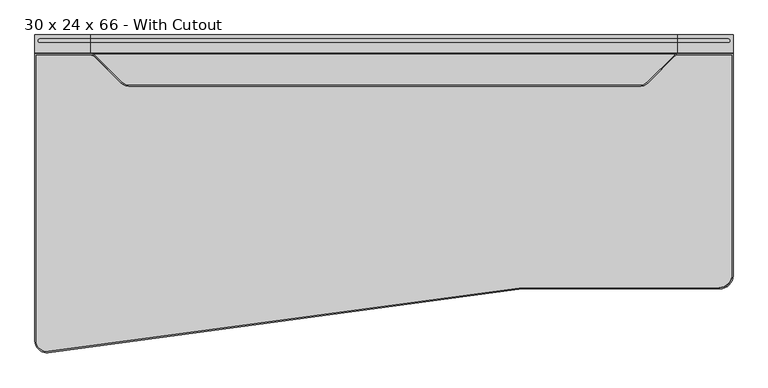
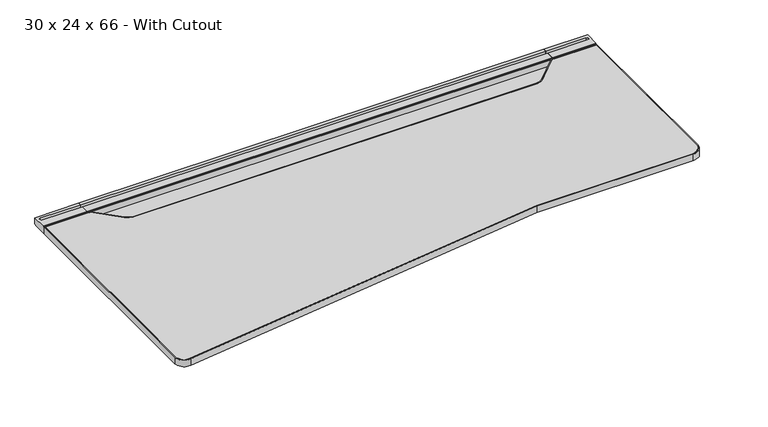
"""IFC4 building model written with IfcOpenShell, lengths in millimetres: furniture geometry, Steelcase - C Scape - Desking - Left Hand Transition - Non Sliding : 30 x 24 x 66 - With Cutout."""

from ifc_helpers import new_model, si_unit, point, frame, frame_2d, origin, place, context, project, spatial, polyline, circle_curve, trimmed, segment, composite_curve, outline, extrude, faceted_brep, source, transform, mapped, element, save
from ifc_brep_helpers import plane_surface, cylinder_surface, revolved_surface, advanced_brep


def furniture_30_x_24_x_66_with_cutout_a6fa4a9a(model_context):
    return source(origin(), model_context, "Body", "SolidModel", [
        advanced_brep(
        [(283.8322876, -45.3135132, 703.3768), (283.8322876, -4.0331902, 703.3768), (283.8322876, -3.2278472, 705.1038636), (283.8322876, 0.0, 705.1038636), (283.8322876, 0.0, 725.932), (283.8322876, -8.5111084, 725.932), (283.8322876, -8.5111084, 713.486), (283.8322876, -19.3290527, 713.486), (283.8322876, -19.3290527, 725.932), (283.8322876, -42.7750923, 725.932), (283.8322876, -42.7750923, 722.4268341), (283.8322876, -45.3135132, 722.4268341), (150.8125, -45.3135132, 703.3768), (150.8125, -45.3135132, 722.4268341), (150.8125, -42.7750923, 722.4268341), (150.8125, -42.7750923, 725.932), (150.8125, 0.0, 725.932), (150.8125, 0.0, 705.1038636), (150.8125, -3.2278472, 705.1038636), (150.8125, -4.0331902, 703.3768), (162.5745728, -19.3290527, 725.932), (162.5745728, -8.5111084, 725.932), (162.5745728, -8.5111084, 713.486), (162.5745728, -19.3290527, 713.486)],
        [
            (0, 1),
            (1, 2),
            (2, 3),
            (3, 4),
            (4, 5),
            (5, 6),
            (6, 7),
            (7, 8),
            (8, 9),
            (9, 10),
            (10, 11),
            (11, 0),
            (12, 13),
            (13, 14),
            (14, 15),
            (15, 16),
            (16, 17),
            (17, 18),
            (18, 19),
            (19, 12),
            (0, 12),
            (19, 1),
            (18, 2),
            (17, 3),
            (16, 4),
            (15, 9),
            (8, 20),
            (20, 21, circle_curve(frame((162.5745728, -13.9200806, 725.932), z_axis=(0.0, 0.0, -1.0), x_axis=(1.0, 0.0, 0.0)), 5.4089722)),
            (21, 5),
            (14, 10),
            (13, 11),
            (6, 22),
            (22, 23, circle_curve(frame((162.5745728, -13.9200806, 713.486), z_axis=(0.0, 0.0, 1.0), x_axis=(1.0, 0.0, 0.0)), 5.4089722)),
            (23, 7),
            (21, 22),
            (20, 23),
        ],
        [
            plane_surface(frame((283.8322876, -45.3135132, 703.3768), z_axis=(1.0, 0.0, 0.0), x_axis=(0.0, 1.0, 0.0))),
            plane_surface(frame((150.8125, -45.3135132, 703.3768), z_axis=(-1.0, 0.0, 0.0), x_axis=(0.0, -1.0, 0.0))),
            plane_surface(frame((283.8322876, -45.3135132, 703.3768), z_axis=(0.0, 0.0, -1.0), x_axis=(-1.0, 0.0, 0.0))),
            plane_surface(frame((283.8322876, -4.0331902, 703.3768), z_axis=(0.0, 0.9063077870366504, -0.4226182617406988), x_axis=(-1.0, 0.0, 0.0))),
            plane_surface(frame((283.8322876, -3.2278472, 705.1038636), z_axis=(0.0, 0.0, -1.0), x_axis=(-1.0, 0.0, 0.0))),
            plane_surface(frame((283.8322876, 0.0, 705.1038636), z_axis=(0.0, 1.0, 0.0), x_axis=(-1.0, 0.0, 0.0))),
            plane_surface(frame((283.8322876, 0.0, 725.932), z_axis=(0.0, 0.0, 1.0), x_axis=(-1.0, 0.0, 0.0))),
            plane_surface(frame((283.8322876, -42.7750923, 725.932), z_axis=(0.0, -1.0, 0.0), x_axis=(-1.0, 0.0, 0.0))),
            plane_surface(frame((283.8322876, -42.7750923, 722.4268341), z_axis=(0.0, 0.0, 1.0), x_axis=(-1.0, 0.0, 0.0))),
            plane_surface(frame((283.8322876, -45.3135132, 722.4268341), z_axis=(0.0, -1.0, 0.0), x_axis=(-1.0, 0.0, 0.0))),
            plane_surface(frame((162.5745728, -8.5111084, 713.486), z_axis=(0.0, 0.0, 1.0), x_axis=(1.0, 0.0, 0.0))),
            plane_surface(frame((283.8322876, -8.5111084, 731.2180541), z_axis=(0.0, -1.0, 0.0), x_axis=(0.0, 0.0, -1.0))),
            revolved_surface(polyline([(167.983545, -13.9200806, 725.932), (167.983545, -13.9200806, 713.486)]), (162.5745728, -13.9200806, 713.486), (0.0, 0.0, 1.0)),
            plane_surface(frame((162.5745728, -19.3290527, 731.2180541), z_axis=(0.0, 1.0, 0.0), x_axis=(0.0, 0.0, -1.0))),
        ],
        [
            (0, [[1, 2, 3, 4, 5, 6, 7, 8, 9, 10, 11, 12]]),
            (1, [[13, 14, 15, 16, 17, 18, 19, 20]]),
            (2, [[-1, 21, -20, 22]]),
            (3, [[-2, -22, -19, 23]]),
            (4, [[-3, -23, -18, 24]]),
            (5, [[-4, -24, -17, 25]]),
            (6, [[-16, 26, -9, 27, 28, 29, -5, -25]]),
            (7, [[-10, -26, -15, 30]]),
            (8, [[-11, -30, -14, 31]]),
            (9, [[-12, -31, -13, -21]]),
            (10, [[32, 33, 34, -7]]),
            (11, [[-32, -6, -29, 35]]),
            (12, [[-33, -35, -28, 36]]),
            (13, [[-34, -36, -27, -8]]),
        ],
    ),
        faceted_brep([(169.8632632, -565.0752923, 700.7093833), (184.1383728, -565.0752923, 693.4200291), (265.5775879, -565.0752923, 693.4200291), (268.1981301, -565.0752923, 679.3263935), (283.8322876, -565.0752923, 679.3263935), (283.8322876, -565.0752923, 703.3768), (169.8632632, -565.0752923, 703.3768), (169.8632632, -4.0331902, 700.7093833), (169.8632632, -4.0331902, 703.3768), (283.8322876, -4.0331902, 703.3768), (283.8322876, -4.0331902, 629.3866), (277.4838347, -4.0331902, 629.3866), (265.5775879, -4.0331902, 693.4200291), (184.1383728, -4.0331902, 693.4200291), (277.4838347, -364.1172546, 629.3866), (270.3634051, -376.5599397, 667.6812472), (283.8322876, -364.1172546, 629.3866), (283.8322876, -376.5599397, 667.6812472)], [[[0, 1, 2, 3, 4, 5, 6]], [[7, 8, 9, 10, 11, 12, 13]], [[1, 0, 7, 13]], [[2, 1, 13, 12]], [[12, 11, 14, 15, 3, 2]], [[11, 10, 16, 14]], [[10, 9, 5, 4, 17, 16]], [[6, 5, 9, 8]], [[0, 6, 8, 7]], [[15, 17, 4, 3]], [[17, 15, 14, 16]]]),
        extrude(outline(composite_curve([segment(polyline([(-293.5216187, 657.3775839), (-559.0022133, 680.1371551)]), True, "CONTINUOUS"), segment(trimmed(circle_curve(frame_2d((-558.7581271, 682.9843154)), 2.8576039), [point((-559.0022133, 680.1371551))], [point((-561.5383043, 682.3236226))], False, "CARTESIAN"), True, "CONTINUOUS"), segment(polyline([(-561.5383043, 682.3236226), (-566.0887542, 701.4717905), (-557.8334441, 701.4717905), (-557.8334441, 703.3768), (-442.6683806, 703.3768), (-442.6683806, 696.3917953), (-318.2108611, 696.3917953), (-318.2108611, 703.3768), (-293.5216187, 703.3768), (-293.5216187, 657.3775839)]), True, "CONTINUOUS")], self_intersect=False)), frame((877.824, 0.0, 0.0), z_axis=(1.0, 0.0, 0.0), x_axis=(0.0, 1.0, 0.0)), (0.0, 0.0, 1.0), 73.152),
        advanced_brep(
        [(1694.1927124, -45.3135132, 703.3768), (1694.1927124, -45.3135132, 722.4268341), (1694.1927124, -42.7750923, 722.4268341), (1694.1927124, -42.7750923, 725.932), (1694.1927124, -19.3290527, 725.932), (1694.1927124, -19.3290527, 713.486), (1694.1927124, -8.5111084, 713.486), (1694.1927124, -8.5111084, 725.932), (1694.1927124, 0.0, 725.932), (1694.1927124, 0.0, 705.1038636), (1694.1927124, -3.2278472, 705.1038636), (1694.1927124, -4.0331902, 703.3768), (1827.2125, -45.3135132, 703.3768), (1827.2125, -4.0331902, 703.3768), (1827.2125, -3.2278472, 705.1038636), (1827.2125, 0.0, 705.1038636), (1827.2125, 0.0, 725.932), (1827.2125, -42.7750923, 725.932), (1827.2125, -42.7750923, 722.4268341), (1827.2125, -45.3135132, 722.4268341), (1815.4504272, -8.5111084, 725.932), (1815.4504272, -19.3290527, 725.932), (1815.4504272, -19.3290527, 713.486), (1815.4504272, -8.5111084, 713.486)],
        [
            (0, 1),
            (1, 2),
            (2, 3),
            (3, 4),
            (4, 5),
            (5, 6),
            (6, 7),
            (7, 8),
            (8, 9),
            (9, 10),
            (10, 11),
            (11, 0),
            (12, 13),
            (13, 14),
            (14, 15),
            (15, 16),
            (16, 17),
            (17, 18),
            (18, 19),
            (19, 12),
            (11, 13),
            (12, 0),
            (10, 14),
            (9, 15),
            (8, 16),
            (7, 20),
            (20, 21, circle_curve(frame((1815.4504272, -13.9200806, 725.932), z_axis=(0.0, 0.0, -1.0), x_axis=(-1.0, 0.0, 0.0)), 5.4089722)),
            (21, 4),
            (3, 17),
            (2, 18),
            (1, 19),
            (5, 22),
            (22, 23, circle_curve(frame((1815.4504272, -13.9200806, 713.486), z_axis=(0.0, 0.0, 1.0), x_axis=(-1.0, 0.0, 0.0)), 5.4089722)),
            (23, 6),
            (23, 20),
            (22, 21),
        ],
        [
            plane_surface(frame((1694.1927124, -45.3135132, 703.3768), z_axis=(-1.0, 0.0, 0.0), x_axis=(0.0, 1.0, 0.0))),
            plane_surface(frame((1827.2125, -45.3135132, 703.3768), z_axis=(1.0, 0.0, 0.0), x_axis=(0.0, -1.0, 0.0))),
            plane_surface(frame((1694.1927124, -45.3135132, 703.3768), z_axis=(0.0, 0.0, -1.0), x_axis=(1.0, 0.0, 0.0))),
            plane_surface(frame((1694.1927124, -4.0331902, 703.3768), z_axis=(0.0, 0.9063077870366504, -0.4226182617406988), x_axis=(1.0, 0.0, 0.0))),
            plane_surface(frame((1694.1927124, -3.2278472, 705.1038636), z_axis=(0.0, 0.0, -1.0), x_axis=(1.0, 0.0, 0.0))),
            plane_surface(frame((1694.1927124, 0.0, 705.1038636), z_axis=(0.0, 1.0, 0.0), x_axis=(1.0, 0.0, 0.0))),
            plane_surface(frame((1694.1927124, 0.0, 725.932), z_axis=(0.0, 0.0, 1.0), x_axis=(1.0, 0.0, 0.0))),
            plane_surface(frame((1694.1927124, -42.7750923, 725.932), z_axis=(0.0, -1.0, 0.0), x_axis=(1.0, 0.0, 0.0))),
            plane_surface(frame((1694.1927124, -42.7750923, 722.4268341), z_axis=(0.0, 0.0, 1.0), x_axis=(1.0, 0.0, 0.0))),
            plane_surface(frame((1694.1927124, -45.3135132, 722.4268341), z_axis=(0.0, -1.0, 0.0), x_axis=(1.0, 0.0, 0.0))),
            plane_surface(frame((1815.4504272, -8.5111084, 713.486), z_axis=(0.0, 0.0, 1.0), x_axis=(-1.0, 0.0, 0.0))),
            plane_surface(frame((1694.1927124, -8.5111084, 731.2180541), z_axis=(0.0, -1.0, 0.0), x_axis=(0.0, 0.0, -1.0))),
            revolved_surface(polyline([(1810.0414549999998, -13.9200806, 725.932), (1810.0414549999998, -13.9200806, 713.486)]), (1815.4504272, -13.9200806, 713.486), (0.0, 0.0, 1.0)),
            plane_surface(frame((1815.4504272, -19.3290527, 731.2180541), z_axis=(0.0, 1.0, 0.0), x_axis=(0.0, 0.0, -1.0))),
        ],
        [
            (0, [[1, 2, 3, 4, 5, 6, 7, 8, 9, 10, 11, 12]]),
            (1, [[13, 14, 15, 16, 17, 18, 19, 20]]),
            (2, [[21, -13, 22, -12]]),
            (3, [[23, -14, -21, -11]]),
            (4, [[24, -15, -23, -10]]),
            (5, [[25, -16, -24, -9]]),
            (6, [[-25, -8, 26, 27, 28, -4, 29, -17]]),
            (7, [[30, -18, -29, -3]]),
            (8, [[31, -19, -30, -2]]),
            (9, [[-22, -20, -31, -1]]),
            (10, [[-6, 32, 33, 34]]),
            (11, [[35, -26, -7, -34]]),
            (12, [[36, -27, -35, -33]]),
            (13, [[-5, -28, -36, -32]]),
        ],
    ),
        faceted_brep([(1808.1617368, -565.0752923, 700.7093833), (1808.1617368, -565.0752923, 703.3768), (1694.1927124, -565.0752923, 703.3768), (1694.1927124, -565.0752923, 679.3263935), (1709.8268699, -565.0752923, 679.3263935), (1712.4474121, -565.0752923, 693.4200291), (1793.8866272, -565.0752923, 693.4200291), (1808.1617368, -4.0331902, 700.7093833), (1793.8866272, -4.0331902, 693.4200291), (1712.4474121, -4.0331902, 693.4200291), (1700.5411653, -4.0331902, 629.3866), (1694.1927124, -4.0331902, 629.3866), (1694.1927124, -4.0331902, 703.3768), (1808.1617368, -4.0331902, 703.3768), (1707.6615949, -376.5599397, 667.6812472), (1700.5411653, -364.1172546, 629.3866), (1694.1927124, -364.1172546, 629.3866), (1694.1927124, -376.5599397, 667.6812472)], [[[0, 1, 2, 3, 4, 5, 6]], [[7, 8, 9, 10, 11, 12, 13]], [[6, 8, 7, 0]], [[5, 9, 8, 6]], [[9, 5, 4, 14, 15, 10]], [[10, 15, 16, 11]], [[11, 16, 17, 3, 2, 12]], [[1, 13, 12, 2]], [[0, 7, 13, 1]], [[14, 4, 3, 17]], [[17, 16, 15, 14]]]),
        extrude(outline(polyline([(-8.5111084, 725.932), (0.0, 725.932), (0.0, 705.1038636), (-3.2278472, 705.1038636), (-4.0331902, 703.3768), (-45.3135132, 703.3768), (-45.3135132, 722.4268341), (-42.7750923, 722.4268341), (-42.7750923, 725.932), (-19.3290527, 725.932), (-19.3290527, 713.486), (-8.5111084, 713.486), (-8.5111084, 725.932)])), frame((283.8322876, 0.0, 0.0), z_axis=(1.0, 0.0, 0.0), x_axis=(0.0, 1.0, 0.0)), (0.0, 0.0, 1.0), 1410.3604248),
        extrude(outline(polyline([(1694.1927124, -4.0331902), (1694.1927124, -293.5216187), (283.8322876, -293.5216187), (283.8322876, -4.0331902), (1694.1927124, -4.0331902)])), frame((0.0, 0.0, 629.3866), z_axis=(0.0, 0.0, 1.0), x_axis=(1.0, 0.0, 0.0)), (0.0, 0.0, 1.0), 73.9902),
        extrude(outline(composite_curve([segment(polyline([(153.8605, -48.3660689), (283.2372608, -48.3660689)]), True, "CONTINUOUS"), segment(trimmed(circle_curve(frame_2d((283.2372608, -64.9605938)), 16.5945249), [point((283.2372608, -48.3660689))], [point((294.9713581, -53.2264889))], False, "CARTESIAN"), True, "CONTINUOUS"), segment(polyline([(294.9713581, -53.2264889), (355.0994608, -113.3545523)]), True, "CONTINUOUS"), segment(trimmed(circle_curve(frame_2d((382.0402204, -86.4137752)), 38.1), [point((355.0994608, -113.3545523))], [point((382.0402204, -124.5137752))], True, "CARTESIAN"), True, "CONTINUOUS"), segment(polyline([(382.0402204, -124.5137752), (1599.1598212, -124.5137752)]), True, "CONTINUOUS"), segment(trimmed(circle_curve(frame_2d((1599.1598212, -86.4137752)), 38.1), [point((1599.1598212, -124.5137752))], [point((1626.1005905, -113.3545426))], True, "CARTESIAN"), True, "CONTINUOUS"), segment(polyline([(1626.1005905, -113.3545426), (1687.7230199, -51.7321087)]), True, "CONTINUOUS"), segment(trimmed(circle_curve(frame_2d((1695.45, -58.9180007)), 10.5519318), [point((1687.7230199, -51.7321087))], [point((1695.45, -48.3660689))], False, "CARTESIAN"), True, "CONTINUOUS"), segment(polyline([(1695.45, -48.3660689), (1824.1645, -48.3660689), (1824.1645, -574.7990234)]), True, "CONTINUOUS"), segment(trimmed(circle_curve(frame_2d((1792.4145, -574.7990234)), 31.75), [point((1824.1645, -574.7990234))], [point((1792.4145, -606.5490234))], False, "CARTESIAN"), True, "CONTINUOUS"), segment(polyline([(1792.4145, -606.5490234), (1320.7997595, -606.5490234), (182.2636568, -759.8823654)]), True, "CONTINUOUS"), segment(trimmed(circle_curve(frame_2d((179.2605, -734.6605286)), 25.4), [point((182.2636568, -759.8823654))], [point((153.8605, -734.6605286))], False, "CARTESIAN"), True, "CONTINUOUS"), segment(polyline([(153.8605, -734.6605286), (153.8605, -48.3660689)]), True, "CONTINUOUS")], self_intersect=False)), frame((0.0, 0.0, 703.3768), z_axis=(0.0, 0.0, 1.0), x_axis=(1.0, 0.0, 0.0)), (0.0, 0.0, 1.0), 20.5232),
        advanced_brep(
        [(1824.1625156, -577.8497165, 703.3768), (1795.4632087, -606.5490234, 703.3768), (1795.4632087, -606.5490234, 723.9), (1824.1625156, -577.8497165, 723.9), (1827.2134922, -577.8497165, 723.9), (1795.4632087, -609.6, 723.9), (1795.4632087, -609.6, 703.3768), (1827.2134922, -577.8497165, 703.3768), (1824.1625156, -48.3666358, 723.9), (1824.1625156, -48.3666358, 703.3768), (1827.2134922, -45.3156593, 703.3768), (1827.2134922, -45.3156593, 723.9), (1695.45, -48.3666358, 723.9), (1695.45, -48.3666358, 703.3768), (1695.45, -45.3156593, 703.3768), (1695.45, -45.3156593, 723.9), (1687.7234351, -51.7324948, 703.3768), (1687.7234351, -51.7324948, 723.9), (1685.4892627, -49.6547721, 723.9), (1685.4892627, -49.6547721, 703.3768), (1624.9189809, -114.5369541, 723.9), (1624.9189809, -114.5369541, 703.3768), (1622.7616146, -112.3795879, 703.3768), (1622.7616146, -112.3795879, 723.9), (1600.8314365, -124.5143421, 703.3768), (1600.8314365, -124.5143421, 723.9), (1600.8314365, -121.4633656, 723.9), (1600.8314365, -121.4633656, 703.3768), (380.3685947, -124.5143421, 723.9), (380.3685947, -124.5143421, 703.3768), (380.3685947, -121.4633656, 703.3768), (380.3685947, -121.4633656, 723.9), (356.2810781, -114.5369706, 703.3768), (356.2810781, -114.5369706, 723.9), (358.4384436, -112.3796037, 723.9), (358.4384436, -112.3796037, 703.3768), (293.5539317, -51.8098652, 723.9), (293.5539317, -51.8098652, 703.3768), (295.7112972, -49.6524983, 703.3768), (295.7112972, -49.6524983, 723.9), (283.8323173, -48.3666358, 703.3768), (283.8323173, -48.3666358, 723.9), (283.6816695, -45.3156593, 723.9), (283.6816695, -45.3156593, 703.3768), (153.861067, -48.3666358, 723.9), (153.861067, -48.3666358, 703.3768), (150.8100904, -45.3156593, 703.3768), (150.8100904, -45.3156593, 723.9), (153.861067, -734.6605286, 723.9), (153.861067, -734.6605286, 703.3768), (150.8100904, -734.6605286, 703.3768), (150.8100904, -734.6605286, 723.9), (182.2635898, -759.8818024, 703.3768), (182.2635898, -759.8818024, 723.9), (182.6243205, -762.9113785, 723.9), (182.6243205, -762.9113785, 703.3768), (1320.9994832, -609.6, 723.9), (1320.7949598, -606.5490234, 723.9), (1320.7949598, -606.5490234, 703.3768), (1320.9994832, -609.6, 703.3768)],
        [
            (0, 1, circle_curve(frame((1795.4632087, -577.8497165, 703.3768), z_axis=(0.0, 0.0, -1.0), x_axis=(0.0, -1.0, 0.0)), 28.6993069)),
            (1, 2),
            (2, 3, circle_curve(frame((1795.4632087, -577.8497165, 723.9), z_axis=(0.0, 0.0, 1.0), x_axis=(0.0, -1.0, 0.0)), 28.6993069)),
            (3, 0),
            (4, 5, circle_curve(frame((1795.4632087, -577.8497165, 723.9), z_axis=(0.0, 0.0, -1.0), x_axis=(0.0, -1.0, 0.0)), 31.7502835)),
            (5, 6),
            (6, 7, circle_curve(frame((1795.4632087, -577.8497165, 703.3768), z_axis=(0.0, 0.0, 1.0), x_axis=(0.0, -1.0, 0.0)), 31.7502835)),
            (7, 4),
            (3, 8),
            (8, 9),
            (9, 0),
            (7, 10),
            (10, 11),
            (11, 4),
            (8, 12),
            (12, 13),
            (13, 9),
            (10, 14),
            (14, 15),
            (15, 11),
            (16, 13, circle_curve(frame((1695.45, -58.9180007, 703.3768), z_axis=(0.0, 0.0, -1.0), x_axis=(0.0, 1.0, 0.0)), 10.5513648)),
            (12, 17, circle_curve(frame((1695.45, -58.9180007, 723.9), z_axis=(0.0, 0.0, 1.0), x_axis=(0.0, 1.0, 0.0)), 10.5513648)),
            (17, 16),
            (18, 15, circle_curve(frame((1695.45, -58.9180007, 723.9), z_axis=(0.0, 0.0, -1.0), x_axis=(0.0, 1.0, 0.0)), 13.6023414)),
            (14, 19, circle_curve(frame((1695.45, -58.9180007, 703.3768), z_axis=(0.0, 0.0, 1.0), x_axis=(0.0, 1.0, 0.0)), 13.6023414)),
            (19, 18),
            (17, 20),
            (20, 21),
            (21, 16),
            (19, 22),
            (22, 23),
            (23, 18),
            (24, 21, circle_curve(frame((1600.8314365, -90.4494114, 703.3768), z_axis=(0.0, 0.0, 1.0), x_axis=(0.7071068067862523, -0.7071067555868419, 0.0)), 34.0649308)),
            (20, 25, circle_curve(frame((1600.8314365, -90.4494114, 723.9), z_axis=(0.0, 0.0, -1.0), x_axis=(0.7071068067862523, -0.7071067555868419, 0.0)), 34.0649308)),
            (25, 24),
            (26, 23, circle_curve(frame((1600.8314365, -90.4494114, 723.9), z_axis=(0.0, 0.0, 1.0), x_axis=(0.7071068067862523, -0.7071067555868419, 0.0)), 31.0139542)),
            (22, 27, circle_curve(frame((1600.8314365, -90.4494114, 703.3768), z_axis=(0.0, 0.0, -1.0), x_axis=(0.7071068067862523, -0.7071067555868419, 0.0)), 31.0139542)),
            (27, 26),
            (25, 28),
            (28, 29),
            (29, 24),
            (27, 30),
            (30, 31),
            (31, 26),
            (32, 29, circle_curve(frame((380.3685947, -90.4494383, 703.3768), z_axis=(0.0, 0.0, 1.0), x_axis=(0.0, -1.0, 0.0)), 34.0649039)),
            (28, 33, circle_curve(frame((380.3685947, -90.4494383, 723.9), z_axis=(0.0, 0.0, -1.0), x_axis=(0.0, -1.0, 0.0)), 34.0649039)),
            (33, 32),
            (34, 31, circle_curve(frame((380.3685947, -90.4494383, 723.9), z_axis=(0.0, 0.0, 1.0), x_axis=(0.0, -1.0, 0.0)), 31.0139273)),
            (30, 35, circle_curve(frame((380.3685947, -90.4494383, 703.3768), z_axis=(0.0, 0.0, -1.0), x_axis=(0.0, -1.0, 0.0)), 31.0139273)),
            (35, 34),
            (33, 36),
            (36, 37),
            (37, 32),
            (35, 38),
            (38, 39),
            (39, 34),
            (40, 37, circle_curve(frame((285.0831504, -60.280652, 703.3768), z_axis=(0.0, 0.0, -1.0), x_axis=(0.7071065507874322, 0.7071070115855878, 0.0)), 11.9794977)),
            (36, 41, circle_curve(frame((285.0831504, -60.280652, 723.9), z_axis=(0.0, 0.0, 1.0), x_axis=(0.7071065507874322, 0.7071070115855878, 0.0)), 11.9794977)),
            (41, 40),
            (42, 39, circle_curve(frame((285.0831504, -60.280652, 723.9), z_axis=(0.0, 0.0, -1.0), x_axis=(0.7071065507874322, 0.7071070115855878, 0.0)), 15.0304743)),
            (38, 43, circle_curve(frame((285.0831504, -60.280652, 703.3768), z_axis=(0.0, 0.0, 1.0), x_axis=(0.7071065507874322, 0.7071070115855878, 0.0)), 15.0304743)),
            (43, 42),
            (41, 44),
            (44, 45),
            (45, 40),
            (43, 46),
            (46, 47),
            (47, 42),
            (44, 48),
            (48, 49),
            (49, 45),
            (46, 50),
            (50, 51),
            (51, 47),
            (52, 49, circle_curve(frame((179.2605, -734.6605286, 703.3768), z_axis=(0.0, 0.0, -1.0), x_axis=(-1.0, 0.0, 0.0)), 25.399433)),
            (48, 53, circle_curve(frame((179.2605, -734.6605286, 723.9), z_axis=(0.0, 0.0, 1.0), x_axis=(-1.0, 0.0, 0.0)), 25.399433)),
            (53, 52),
            (54, 51, circle_curve(frame((179.2605, -734.6605286, 723.9), z_axis=(0.0, 0.0, -1.0), x_axis=(-1.0, 0.0, 0.0)), 28.4504096)),
            (50, 55, circle_curve(frame((179.2605, -734.6605286, 703.3768), z_axis=(0.0, 0.0, 1.0), x_axis=(-1.0, 0.0, 0.0)), 28.4504096)),
            (55, 54),
            (54, 56),
            (56, 5),
            (57, 53),
            (2, 57),
            (57, 58),
            (58, 52),
            (59, 55),
            (6, 59),
            (58, 1),
            (59, 56),
        ],
        [
            revolved_surface(polyline([(1795.4632087, -606.5490234, 723.9), (1795.4632087, -606.5490234, 703.3768)]), (1795.4632087, -577.8497165, 0.0), (0.0, 0.0, 1.0)),
            cylinder_surface(frame((1795.4632087, -577.8497165, 0.0), z_axis=(0.0, 0.0, 1.0), x_axis=(0.0, -1.0, 0.0)), 31.7502835),
            plane_surface(frame((1824.1625156, -577.8497165, 723.9), z_axis=(-1.0, 0.0, 0.0), x_axis=(0.0, 1.0, 0.0))),
            plane_surface(frame((1827.2134922, -577.8497165, 703.3768), z_axis=(1.0, 0.0, 0.0), x_axis=(0.0, 1.0, 0.0))),
            plane_surface(frame((1824.1625156, -48.3666358, 723.9), z_axis=(0.0, -1.0, 0.0), x_axis=(-1.0, 0.0, 0.0))),
            plane_surface(frame((1827.2134922, -45.3156593, 703.3768), z_axis=(0.0, 1.0, 0.0), x_axis=(-1.0, 0.0, 0.0))),
            revolved_surface(polyline([(1695.45, -48.3666359, 723.9), (1695.45, -48.3666359, 703.3768)]), (1695.45, -58.9180007, 0.0), (0.0, 0.0, 1.0)),
            cylinder_surface(frame((1695.45, -58.9180007, 0.0), z_axis=(0.0, 0.0, 1.0), x_axis=(0.0, 1.0, 0.0)), 13.6023414),
            plane_surface(frame((1687.7234354, -51.7324951, 723.9), z_axis=(0.7071068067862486, -0.7071067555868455, 0.0), x_axis=(-0.7071067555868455, -0.7071068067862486, 0.0))),
            plane_surface(frame((1685.4877928, -49.6534052, 703.3768), z_axis=(-0.7071068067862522, 0.707106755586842, 0.0), x_axis=(-0.707106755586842, -0.7071068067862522, 0.0))),
            cylinder_surface(frame((1600.8314365, -90.4494114, 0.0), z_axis=(0.0, 0.0, -1.0), x_axis=(0.7071068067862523, -0.7071067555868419, 0.0)), 34.0649308),
            revolved_surface(polyline([(1622.7616146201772, -112.37958793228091, 703.3768), (1622.7616146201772, -112.37958793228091, 723.9)]), (1600.8314365, -90.4494114, 0.0), (0.0, 0.0, -1.0)),
            plane_surface(frame((1600.8314365, -124.5143421, 723.9), z_axis=(0.0, -1.0, 0.0), x_axis=(-1.0, 0.0, 0.0))),
            plane_surface(frame((1600.8314365, -121.4633656, 703.3768), z_axis=(0.0, 1.0, 0.0), x_axis=(-1.0, 0.0, 0.0))),
            cylinder_surface(frame((380.3685947, -90.4494383, 0.0), z_axis=(0.0, 0.0, -1.0), x_axis=(0.0, -1.0, 0.0)), 34.0649039),
            revolved_surface(polyline([(380.3685947, -121.4633656, 703.3768), (380.3685947, -121.4633656, 723.9)]), (380.3685947, -90.4494383, 0.0), (0.0, 0.0, -1.0)),
            plane_surface(frame((356.2810781, -114.5369706, 723.9), z_axis=(-0.7071065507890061, -0.707107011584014, 0.0), x_axis=(-0.707107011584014, 0.7071065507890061, 0.0))),
            plane_surface(frame((358.4384436, -112.3796037, 703.3768), z_axis=(0.7071065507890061, 0.707107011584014, 0.0), x_axis=(-0.707107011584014, 0.7071065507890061, 0.0))),
            revolved_surface(polyline([(293.553931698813, -51.80986518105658, 723.9), (293.553931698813, -51.80986518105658, 703.3768)]), (285.0831504, -60.280652, 0.0), (0.0, 0.0, 1.0)),
            cylinder_surface(frame((285.0831504, -60.280652, 0.0), z_axis=(0.0, 0.0, 1.0), x_axis=(0.7071065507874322, 0.7071070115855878, 0.0)), 15.0304743),
            plane_surface(frame((283.8323173, -48.3666358, 723.9), z_axis=(0.0, -1.0, 0.0), x_axis=(-1.0, 0.0, 0.0))),
            plane_surface(frame((283.6816695, -45.3156593, 703.3768), z_axis=(0.0, 1.0, 0.0), x_axis=(-1.0, 0.0, 0.0))),
            plane_surface(frame((153.861067, -48.3666358, 723.9), z_axis=(1.0, 0.0, 0.0), x_axis=(0.0, -1.0, 0.0))),
            plane_surface(frame((150.8100904, -45.3156593, 703.3768), z_axis=(-1.0, 0.0, 0.0), x_axis=(0.0, -1.0, 0.0))),
            revolved_surface(polyline([(153.86106700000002, -734.6605286, 723.9), (153.86106700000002, -734.6605286, 703.3768)]), (179.2605, -734.6605286, 0.0), (0.0, 0.0, 1.0)),
            cylinder_surface(frame((179.2605, -734.6605286, 0.0), z_axis=(0.0, 0.0, 1.0), x_axis=(-1.0, 0.0, 0.0)), 28.4504096),
            plane_surface(frame((182.6243631, -762.9117358, 723.9), z_axis=(0.0, 0.0, 1.0), x_axis=(0.9910527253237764, 0.13347095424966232, 0.0))),
            plane_surface(frame((182.2635898, -759.8818023, 723.9), z_axis=(-0.13347095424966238, 0.9910527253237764, 0.0), x_axis=(0.9910527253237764, 0.13347095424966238, 0.0))),
            plane_surface(frame((182.2635898, -759.8818023, 703.3768), z_axis=(0.0, 0.0, -1.0), x_axis=(0.9910527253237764, 0.13347095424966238, 0.0))),
            plane_surface(frame((182.6243631, -762.9117358, 703.3768), z_axis=(0.13347095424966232, -0.9910527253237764, 0.0), x_axis=(0.9910527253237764, 0.13347095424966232, 0.0))),
            plane_surface(frame((1320.7949598, -606.5490234, 723.9), z_axis=(0.0, 1.0, 0.0), x_axis=(1.0, 0.0, 0.0))),
            plane_surface(frame((1320.9994832, -609.6, 703.3768), z_axis=(0.0, -1.0, 0.0), x_axis=(1.0, 0.0, 0.0))),
        ],
        [
            (0, [[1, 2, 3, 4]]),
            (1, [[5, 6, 7, 8]]),
            (2, [[-4, 9, 10, 11]]),
            (3, [[-8, 12, 13, 14]]),
            (4, [[-10, 15, 16, 17]]),
            (5, [[-13, 18, 19, 20]]),
            (6, [[21, -16, 22, 23]]),
            (7, [[24, -19, 25, 26]]),
            (8, [[-23, 27, 28, 29]]),
            (9, [[-26, 30, 31, 32]]),
            (10, [[33, -28, 34, 35]]),
            (11, [[36, -31, 37, 38]]),
            (12, [[-35, 39, 40, 41]]),
            (13, [[-38, 42, 43, 44]]),
            (14, [[45, -40, 46, 47]]),
            (15, [[48, -43, 49, 50]]),
            (16, [[-47, 51, 52, 53]]),
            (17, [[-50, 54, 55, 56]]),
            (18, [[57, -52, 58, 59]]),
            (19, [[60, -55, 61, 62]]),
            (20, [[-59, 63, 64, 65]]),
            (21, [[-62, 66, 67, 68]]),
            (22, [[-64, 69, 70, 71]]),
            (23, [[-67, 72, 73, 74]]),
            (24, [[75, -70, 76, 77]]),
            (25, [[78, -73, 79, 80]]),
            (26, [[-74, -78, 81, 82, -5, -14, -20, -24, -32, -36, -44, -48, -56, -60, -68], [83, -76, -69, -63, -58, -51, -46, -39, -34, -27, -22, -15, -9, -3, 84]]),
            (27, [[-77, -83, 85, 86]]),
            (28, [[87, -79, -72, -66, -61, -54, -49, -42, -37, -30, -25, -18, -12, -7, 88], [-71, -75, -86, 89, -1, -11, -17, -21, -29, -33, -41, -45, -53, -57, -65]]),
            (29, [[-80, -87, 90, -81]]),
            (30, [[-85, -84, -2, -89]]),
            (31, [[-90, -88, -6, -82]]),
        ],
    ),
    ])


if __name__ == "__main__":
    model = new_model("IFC4")
    model_context = context("Model", 3, world=origin())
    ifc_project = project(units=[si_unit("LENGTHUNIT", "METRE", prefix="MILLI")], contexts=[model_context])
    site = spatial("IfcSite", under=ifc_project)
    building = spatial("IfcBuilding", under=site)
    placement = place(None, origin())
    furniture_30_x_24_x_66_with_cutout_shape = furniture_30_x_24_x_66_with_cutout_a6fa4a9a(model_context)
    element("IfcFurniture", 1, ObjectType="Steelcase - C Scape - Desking - Left Hand Transition - Non Sliding : 30 x 24 x 66 - With Cutout", at=placement, inside=building, context=model_context, shape_type="MappedRepresentation", body=[
        mapped(furniture_30_x_24_x_66_with_cutout_shape, transform((0.0, 0.0, 0.0), x_axis=(1.0, 0.0, 0.0), y_axis=(0.0, 1.0, 0.0), z_axis=(0.0, 0.0, 1.0))),
    ])
    save(model, "model.ifc")
